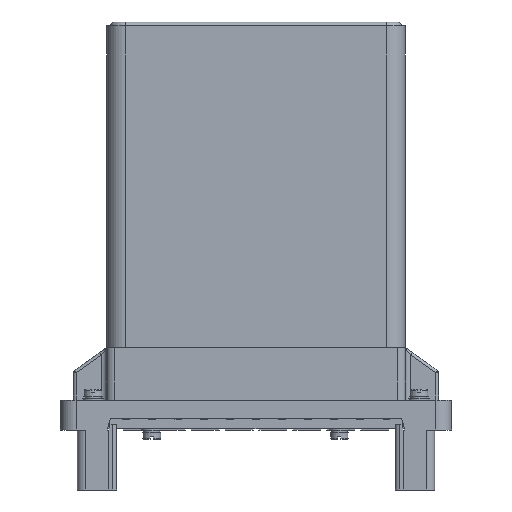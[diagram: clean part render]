
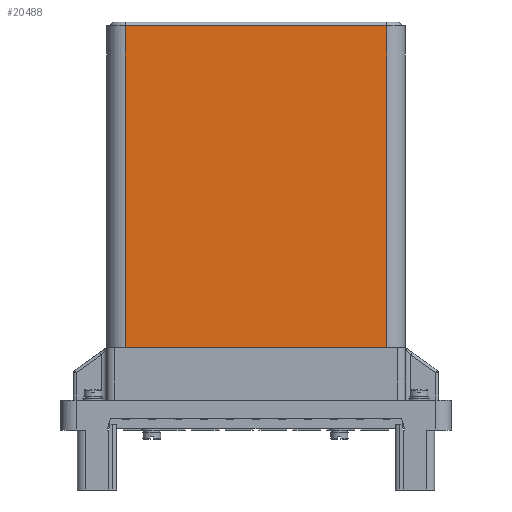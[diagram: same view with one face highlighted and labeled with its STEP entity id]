
A CAD part, left-side view. The second image highlights one B-rep face of the part: STEP entity #20488.
In plain terms, the highlighted planar face has unit normal (-1, 0, 0).
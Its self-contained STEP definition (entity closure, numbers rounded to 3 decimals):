
#20488=ADVANCED_FACE('',(#44319),#44321,.T.);
#44319=FACE_BOUND('',#44320,.T.);
#44320=EDGE_LOOP('',(#63407,#63408,#63409,#63410));
#44321=PLANE('',#44322);
#44322=AXIS2_PLACEMENT_3D('',#44323,#44324,#44325);
#44323=CARTESIAN_POINT('',(-32.15,50.15,31.5));
#44324=DIRECTION('',(-1.,0.,0.));
#44325=DIRECTION('',(0.,-1.,0.));
#63407=ORIENTED_EDGE('',*,*,#72836,.T.);
#63408=ORIENTED_EDGE('',*,*,#73903,.T.);
#63409=ORIENTED_EDGE('',*,*,#73904,.F.);
#63410=ORIENTED_EDGE('',*,*,#73905,.F.);
#72836=EDGE_CURVE('',#85265,#85263,#85266,.T.);
#73903=EDGE_CURVE('',#85263,#86994,#86996,.T.);
#73904=EDGE_CURVE('',#86997,#86994,#86998,.T.);
#73905=EDGE_CURVE('',#85265,#86997,#86999,.T.);
#85263=VERTEX_POINT('',#112657);
#85265=VERTEX_POINT('',#112662);
#85266=LINE('',#112663,#112664);
#86994=VERTEX_POINT('',#117291);
#86996=LINE('',#117296,#117297);
#86997=VERTEX_POINT('',#117299);
#86998=LINE('',#117300,#117301);
#86999=LINE('',#117303,#117304);
#112657=CARTESIAN_POINT('',(-32.15,-50.15,31.5));
#112662=CARTESIAN_POINT('',(-32.15,50.15,31.5));
#112663=CARTESIAN_POINT('',(-32.15,50.15,31.5));
#112664=VECTOR('',#112665,1.);
#112665=DIRECTION('',(0.,-1.,0.));
#117291=CARTESIAN_POINT('',(-32.15,-50.15,155.));
#117296=CARTESIAN_POINT('',(-32.15,-50.15,31.5));
#117297=VECTOR('',#117298,1.);
#117298=DIRECTION('',(0.,0.,1.));
#117299=CARTESIAN_POINT('',(-32.15,50.15,155.));
#117300=CARTESIAN_POINT('',(-32.15,50.15,155.));
#117301=VECTOR('',#117302,1.);
#117302=DIRECTION('',(0.,-1.,0.));
#117303=CARTESIAN_POINT('',(-32.15,50.15,31.5));
#117304=VECTOR('',#117305,1.);
#117305=DIRECTION('',(0.,0.,1.));
